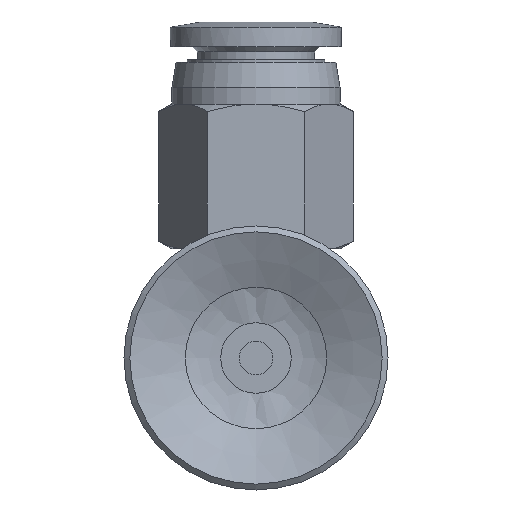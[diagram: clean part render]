
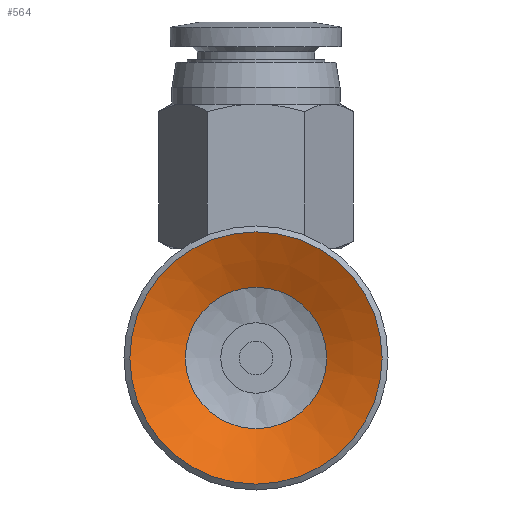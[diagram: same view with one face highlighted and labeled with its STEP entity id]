
A CAD part, front view. The second image highlights one B-rep face of the part: STEP entity #564.
In plain terms, the highlighted conical face has half-angle 65.056 degrees and reference radius 3.2 mm.
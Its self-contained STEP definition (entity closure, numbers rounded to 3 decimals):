
#564=ADVANCED_FACE('',(#888,#889),#890,.F.);
#888=FACE_BOUND('',#1299,.T.);
#889=FACE_OUTER_BOUND('',#1300,.T.);
#890=CONICAL_SURFACE('',#1301,3.2,1.135);
#1299=EDGE_LOOP('',(#2424));
#1300=EDGE_LOOP('',(#2425));
#1301=AXIS2_PLACEMENT_3D('',#2426,#2427,#2428);
#2424=ORIENTED_EDGE('',*,*,#2971,.T.);
#2425=ORIENTED_EDGE('',*,*,#2964,.T.);
#2426=CARTESIAN_POINT('',(0.0,7.896,0.0));
#2427=DIRECTION('',(-0.0,-1.0,0.));
#2428=DIRECTION('',(0.0,0.,-1.0));
#2964=EDGE_CURVE('',#3396,#3396,#3397,.T.);
#2971=EDGE_CURVE('',#3410,#3410,#3411,.T.);
#3396=VERTEX_POINT('',#4322);
#3397=CIRCLE('',#4323,7.5);
#3410=VERTEX_POINT('',#4336);
#3411=CIRCLE('',#4337,4.203);
#4322=CARTESIAN_POINT('',(0.0,5.896,-7.5));
#4323=AXIS2_PLACEMENT_3D('',#5089,#5090,#5091);
#4336=CARTESIAN_POINT('',(0.0,7.43,-4.203));
#4337=AXIS2_PLACEMENT_3D('',#5110,#5111,#5112);
#5089=CARTESIAN_POINT('',(0.0,5.896,0.0));
#5090=DIRECTION('',(0.0,-1.0,0.));
#5091=DIRECTION('',(0.0,0.,-1.0));
#5110=CARTESIAN_POINT('',(0.0,7.43,0.0));
#5111=DIRECTION('',(0.0,1.0,0.));
#5112=DIRECTION('',(0.0,0.,-1.0));
